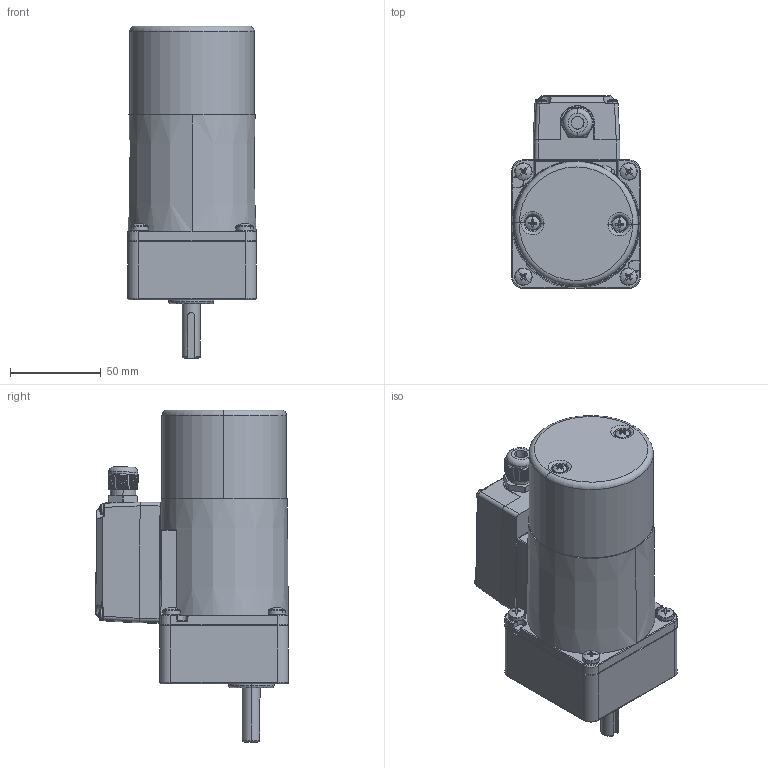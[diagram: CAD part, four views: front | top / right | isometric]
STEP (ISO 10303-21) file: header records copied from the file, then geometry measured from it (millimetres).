
FILE_DESCRIPTION (( 'STEP AP203' ), '1' );
FILE_NAME ('3RK15GN-CMT(3GN3K-18K).STEP', '2023-08-08T03:20:05', ( 'Windows User' ), ( 'P R C' ), 'SwSTEP 2.0', 'SolidWorks 2019', '' );
FILE_SCHEMA (( 'CONFIG_CONTROL_DESIGN' ));
Length unit declared in the file: millimetre
Products named in the file (27): ^____3RK15GN-CMT___3RK15GN-CMT(3GN3K-18K)(2)_3RK15GN-CMT(3GN3K-18K); 葩璃 (3) ^_葩璃 (3) __3RK15GN-CMT___3RK15GN-CMT(3GN3K-18K)(2)_3RK15GN-CMT(3GN3K-18K); 3RK15GN-CMT(3GN3K-18K)(2)^3RK15GN-CMT(3GN3K-18K); 葩璃 (3) ^_葩璃 (2) __3RK15GN-CMT___3RK15GN-CMT(3GN3K-18K)(2)_3RK15GN-CMT(3GN3K-18K); ____53^3GN3K-18K_ASM_3GN3K-18K_3RK15GN-CMT(3GN3K-18K)(2)_3RK15GN-CMT(3GN3K-18K); ^3RK15GN-CMT___3RK15GN-CMT(3GN3K-18K)(2)_3RK15GN-CMT(3GN3K-18K); ^_葩璃 (3) __3RK15GN-CMT___3RK15GN-CMT(3GN3K-18K)(2)_3RK15GN-CMT(3GN3K-18K); ^葩璃 (2) __3RK15GN-CMT___3RK15GN-CMT(3GN3K-18K)(2)_3RK15GN-CMT(3GN3K-18K); ^_葩璃 (2) __3RK15GN-CMT___3RK15GN-CMT(3GN3K-18K)(2)_3RK15GN-CMT(3GN3K-18K); ^_3RK15GN-CMT___3RK15GN-CMT(3GN3K-18K)(2)_3RK15GN-CMT(3GN3K-18K); 3RK15GN-CMT(3GN3K-18K); 3RK15GN-CMT^__3RK15GN-CMT(3GN3K-18K)(2)_3RK15GN-CMT(3GN3K-18K); 3GN3K-18K_ASM^3GN3K-18K_3RK15GN-CMT(3GN3K-18K)(2)_3RK15GN-CMT(3GN3K-18K); 3GN3K-18K^3RK15GN-CMT(3GN3K-18K)(2)_3RK15GN-CMT(3GN3K-18K); ^_3RK15GN-CMT(3GN3K-18K)(2)_3RK15GN-CMT(3GN3K-18K); 葩璃 (3) ^_3RK15GN-CMT___3RK15GN-CMT(3GN3K-18K)(2)_3RK15GN-CMT(3GN3K-18K); ^_____3RK15GN-CMT___3RK15GN-CMT(3GN3K-18K)(2)_3RK15GN-CMT(3GN3K-18K); ^__3RK15GN-CMT___3RK15GN-CMT(3GN3K-18K)(2)_3RK15GN-CMT(3GN3K-18K); ^___3RK15GN-CMT___3RK15GN-CMT(3GN3K-18K)(2)_3RK15GN-CMT(3GN3K-18K); ^3RK15GN-CMT(3GN3K-18K)(2)_3RK15GN-CMT(3GN3K-18K); 葩璃 (2) ^_葩璃 (2) __3RK15GN-CMT___3RK15GN-CMT(3GN3K-18K)(2)_3RK15GN-CMT(3GN3K-18K); PRT0004^3GN3K-18K_ASM_3GN3K-18K_3RK15GN-CMT(3GN3K-18K)(2)_3RK15GN-CMT(3GN3K-18K); 葩璃 (2) ^_3RK15GN-CMT___3RK15GN-CMT(3GN3K-18K)(2)_3RK15GN-CMT(3GN3K-18K); 葩璃 (4) ^_葩璃 (3) __3RK15GN-CMT___3RK15GN-CMT(3GN3K-18K)(2)_3RK15GN-CMT(3GN3K-18K); ^葩璃 (3) __3RK15GN-CMT___3RK15GN-CMT(3GN3K-18K)(2)_3RK15GN-CMT(3GN3K-18K); 葩璃 (2) ^_葩璃 (3) __3RK15GN-CMT___3RK15GN-CMT(3GN3K-18K)(2)_3RK15GN-CMT(3GN3K-18K)
Assembly tree (32 placements, depth 11):
  3RK15GN-CMT(3GN3K-18K)
    3RK15GN-CMT(3GN3K-18K)(2)^3RK15GN-CMT(3GN3K-18K)
      ^3RK15GN-CMT(3GN3K-18K)(2)_3RK15GN-CMT(3GN3K-18K)
        ^_3RK15GN-CMT(3GN3K-18K)(2)_3RK15GN-CMT(3GN3K-18K)
          3RK15GN-CMT^__3RK15GN-CMT(3GN3K-18K)(2)_3RK15GN-CMT(3GN3K-18K)
            ^3RK15GN-CMT___3RK15GN-CMT(3GN3K-18K)(2)_3RK15GN-CMT(3GN3K-18K)
              ^_3RK15GN-CMT___3RK15GN-CMT(3GN3K-18K)(2)_3RK15GN-CMT(3GN3K-18K)
                ^__3RK15GN-CMT___3RK15GN-CMT(3GN3K-18K)(2)_3RK15GN-CMT(3GN3K-18K)
                  ^___3RK15GN-CMT___3RK15GN-CMT(3GN3K-18K)(2)_3RK15GN-CMT(3GN3K-18K)
              葩璃 (2) ^_3RK15GN-CMT___3RK15GN-CMT(3GN3K-18K)(2)_3RK15GN-CMT(3GN3K-18K)
                ^葩璃 (2) __3RK15GN-CMT___3RK15GN-CMT(3GN3K-18K)(2)_3RK15GN-CMT(3GN3K-18K)
                  ^_葩璃 (2) __3RK15GN-CMT___3RK15GN-CMT(3GN3K-18K)(2)_3RK15GN-CMT(3GN3K-18K)
                  葩璃 (2) ^_葩璃 (2) __3RK15GN-CMT___3RK15GN-CMT(3GN3K-18K)(2)_3RK15GN-CMT(3GN3K-18K)
                  葩璃 (3) ^_葩璃 (2) __3RK15GN-CMT___3RK15GN-CMT(3GN3K-18K)(2)_3RK15GN-CMT(3GN3K-18K)  x4
              葩璃 (3) ^_3RK15GN-CMT___3RK15GN-CMT(3GN3K-18K)(2)_3RK15GN-CMT(3GN3K-18K)
                ^葩璃 (3) __3RK15GN-CMT___3RK15GN-CMT(3GN3K-18K)(2)_3RK15GN-CMT(3GN3K-18K)
                  ^_葩璃 (3) __3RK15GN-CMT___3RK15GN-CMT(3GN3K-18K)(2)_3RK15GN-CMT(3GN3K-18K)
                  葩璃 (2) ^_葩璃 (3) __3RK15GN-CMT___3RK15GN-CMT(3GN3K-18K)(2)_3RK15GN-CMT(3GN3K-18K)
                  葩璃 (3) ^_葩璃 (3) __3RK15GN-CMT___3RK15GN-CMT(3GN3K-18K)(2)_3RK15GN-CMT(3GN3K-18K)
                  葩璃 (4) ^_葩璃 (3) __3RK15GN-CMT___3RK15GN-CMT(3GN3K-18K)(2)_3RK15GN-CMT(3GN3K-18K)
        ^_3RK15GN-CMT(3GN3K-18K)(2)_3RK15GN-CMT(3GN3K-18K)  x4
      3GN3K-18K^3RK15GN-CMT(3GN3K-18K)(2)_3RK15GN-CMT(3GN3K-18K)
        3GN3K-18K_ASM^3GN3K-18K_3RK15GN-CMT(3GN3K-18K)(2)_3RK15GN-CMT(3GN3K-18K)
          PRT0004^3GN3K-18K_ASM_3GN3K-18K_3RK15GN-CMT(3GN3K-18K)(2)_3RK15GN-CMT(3GN3K-18K)
          ____53^3GN3K-18K_ASM_3GN3K-18K_3RK15GN-CMT(3GN3K-18K)(2)_3RK15GN-CMT(3GN3K-18K)
Bounding box: 70.8 x 106.24 x 183.02 mm (x, y, z)
Volume: 625959.6 mm3; surface area: 109308.1 mm2
Topology: 17 solids, 17 shells, 2141 faces, 5539 edges, 3434 vertices
Faces by surface type: cone 942, cylinder 694, plane 330, torus 122, sphere 30, bspline 23
Entity records: 47450 total; most frequent: CARTESIAN_POINT 14135, DIRECTION 6809, ORIENTED_EDGE 6256, EDGE_CURVE 3128, AXIS2_PLACEMENT_3D 2852, VERTEX_POINT 1966, CIRCLE 1594, EDGE_LOOP 1302
